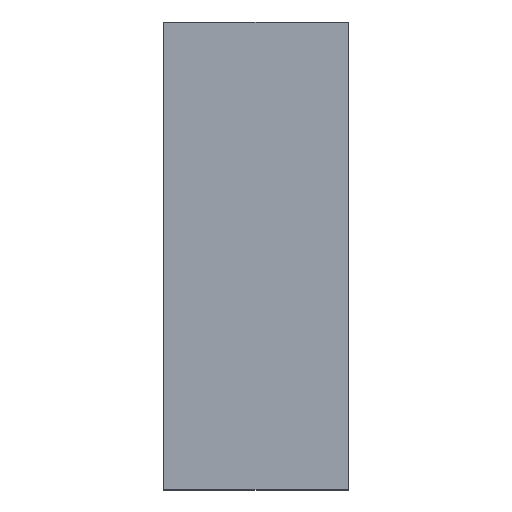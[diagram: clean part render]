
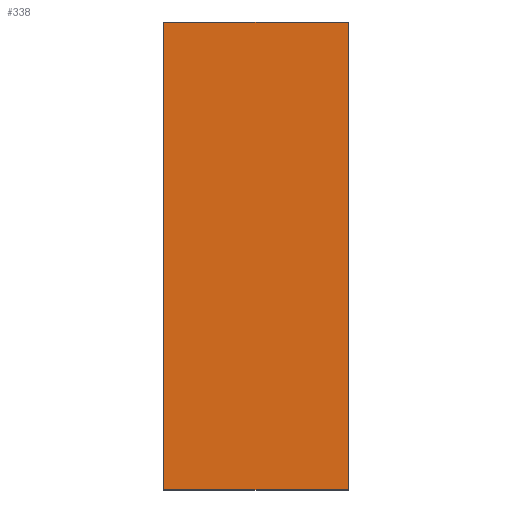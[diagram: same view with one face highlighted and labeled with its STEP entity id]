
A CAD part, top view. The second image highlights one B-rep face of the part: STEP entity #338.
In plain terms, the highlighted planar face has unit normal (0, 0, 1).
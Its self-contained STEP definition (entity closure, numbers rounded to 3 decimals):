
#24 = VERTEX_POINT('',#25);
#25 = CARTESIAN_POINT('',(1260.,-190.,171.));
#32 = PLANE('',#33);
#33 = AXIS2_PLACEMENT_3D('',#34,#35,#36);
#34 = CARTESIAN_POINT('',(1260.,-190.,165.));
#35 = DIRECTION('',(-1.,0.,0.));
#36 = DIRECTION('',(0.,1.,0.));
#44 = PLANE('',#45);
#45 = AXIS2_PLACEMENT_3D('',#46,#47,#48);
#46 = CARTESIAN_POINT('',(1410.,-190.,165.));
#47 = DIRECTION('',(0.,-1.,0.));
#48 = DIRECTION('',(-1.,0.,0.));
#56 = EDGE_CURVE('',#24,#57,#59,.T.);
#57 = VERTEX_POINT('',#58);
#58 = CARTESIAN_POINT('',(1260.,190.,171.));
#59 = SURFACE_CURVE('',#60,(#64,#71),.PCURVE_S1.);
#60 = LINE('',#61,#62);
#61 = CARTESIAN_POINT('',(1260.,-190.,171.));
#62 = VECTOR('',#63,1.);
#63 = DIRECTION('',(0.,1.,0.));
#64 = PCURVE('',#32,#65);
#65 = DEFINITIONAL_REPRESENTATION('',(#66),#70);
#66 = LINE('',#67,#68);
#67 = CARTESIAN_POINT('',(0.,-6.));
#68 = VECTOR('',#69,1.);
#69 = DIRECTION('',(1.,0.));
#70 = ( GEOMETRIC_REPRESENTATION_CONTEXT(2) 
PARAMETRIC_REPRESENTATION_CONTEXT() REPRESENTATION_CONTEXT('2D SPACE',''
  ) );
#71 = PCURVE('',#72,#77);
#72 = PLANE('',#73);
#73 = AXIS2_PLACEMENT_3D('',#74,#75,#76);
#74 = CARTESIAN_POINT('',(1335.,0.,171.));
#75 = DIRECTION('',(-0.,-0.,-1.));
#76 = DIRECTION('',(-1.,0.,0.));
#77 = DEFINITIONAL_REPRESENTATION('',(#78),#82);
#78 = LINE('',#79,#80);
#79 = CARTESIAN_POINT('',(75.,-190.));
#80 = VECTOR('',#81,1.);
#81 = DIRECTION('',(0.,1.));
#82 = ( GEOMETRIC_REPRESENTATION_CONTEXT(2) 
PARAMETRIC_REPRESENTATION_CONTEXT() REPRESENTATION_CONTEXT('2D SPACE',''
  ) );
#100 = PLANE('',#101);
#101 = AXIS2_PLACEMENT_3D('',#102,#103,#104);
#102 = CARTESIAN_POINT('',(1260.,190.,165.));
#103 = DIRECTION('',(0.,1.,0.));
#104 = DIRECTION('',(1.,0.,0.));
#142 = EDGE_CURVE('',#57,#143,#145,.T.);
#143 = VERTEX_POINT('',#144);
#144 = CARTESIAN_POINT('',(1410.,190.,171.));
#145 = SURFACE_CURVE('',#146,(#150,#157),.PCURVE_S1.);
#146 = LINE('',#147,#148);
#147 = CARTESIAN_POINT('',(1260.,190.,171.));
#148 = VECTOR('',#149,1.);
#149 = DIRECTION('',(1.,0.,0.));
#150 = PCURVE('',#100,#151);
#151 = DEFINITIONAL_REPRESENTATION('',(#152),#156);
#152 = LINE('',#153,#154);
#153 = CARTESIAN_POINT('',(0.,-6.));
#154 = VECTOR('',#155,1.);
#155 = DIRECTION('',(1.,0.));
#156 = ( GEOMETRIC_REPRESENTATION_CONTEXT(2) 
PARAMETRIC_REPRESENTATION_CONTEXT() REPRESENTATION_CONTEXT('2D SPACE',''
  ) );
#157 = PCURVE('',#72,#158);
#158 = DEFINITIONAL_REPRESENTATION('',(#159),#163);
#159 = LINE('',#160,#161);
#160 = CARTESIAN_POINT('',(75.,190.));
#161 = VECTOR('',#162,1.);
#162 = DIRECTION('',(-1.,0.));
#163 = ( GEOMETRIC_REPRESENTATION_CONTEXT(2) 
PARAMETRIC_REPRESENTATION_CONTEXT() REPRESENTATION_CONTEXT('2D SPACE',''
  ) );
#181 = PLANE('',#182);
#182 = AXIS2_PLACEMENT_3D('',#183,#184,#185);
#183 = CARTESIAN_POINT('',(1410.,190.,165.));
#184 = DIRECTION('',(1.,0.,-0.));
#185 = DIRECTION('',(0.,-1.,0.));
#218 = EDGE_CURVE('',#143,#219,#221,.T.);
#219 = VERTEX_POINT('',#220);
#220 = CARTESIAN_POINT('',(1410.,-190.,171.));
#221 = SURFACE_CURVE('',#222,(#226,#233),.PCURVE_S1.);
#222 = LINE('',#223,#224);
#223 = CARTESIAN_POINT('',(1410.,190.,171.));
#224 = VECTOR('',#225,1.);
#225 = DIRECTION('',(0.,-1.,0.));
#226 = PCURVE('',#181,#227);
#227 = DEFINITIONAL_REPRESENTATION('',(#228),#232);
#228 = LINE('',#229,#230);
#229 = CARTESIAN_POINT('',(0.,-6.));
#230 = VECTOR('',#231,1.);
#231 = DIRECTION('',(1.,0.));
#232 = ( GEOMETRIC_REPRESENTATION_CONTEXT(2) 
PARAMETRIC_REPRESENTATION_CONTEXT() REPRESENTATION_CONTEXT('2D SPACE',''
  ) );
#233 = PCURVE('',#72,#234);
#234 = DEFINITIONAL_REPRESENTATION('',(#235),#239);
#235 = LINE('',#236,#237);
#236 = CARTESIAN_POINT('',(-75.,190.));
#237 = VECTOR('',#238,1.);
#238 = DIRECTION('',(0.,-1.));
#239 = ( GEOMETRIC_REPRESENTATION_CONTEXT(2) 
PARAMETRIC_REPRESENTATION_CONTEXT() REPRESENTATION_CONTEXT('2D SPACE',''
  ) );
#289 = EDGE_CURVE('',#219,#24,#290,.T.);
#290 = SURFACE_CURVE('',#291,(#295,#302),.PCURVE_S1.);
#291 = LINE('',#292,#293);
#292 = CARTESIAN_POINT('',(1410.,-190.,171.));
#293 = VECTOR('',#294,1.);
#294 = DIRECTION('',(-1.,0.,0.));
#295 = PCURVE('',#44,#296);
#296 = DEFINITIONAL_REPRESENTATION('',(#297),#301);
#297 = LINE('',#298,#299);
#298 = CARTESIAN_POINT('',(0.,-6.));
#299 = VECTOR('',#300,1.);
#300 = DIRECTION('',(1.,0.));
#301 = ( GEOMETRIC_REPRESENTATION_CONTEXT(2) 
PARAMETRIC_REPRESENTATION_CONTEXT() REPRESENTATION_CONTEXT('2D SPACE',''
  ) );
#302 = PCURVE('',#72,#303);
#303 = DEFINITIONAL_REPRESENTATION('',(#304),#308);
#304 = LINE('',#305,#306);
#305 = CARTESIAN_POINT('',(-75.,-190.));
#306 = VECTOR('',#307,1.);
#307 = DIRECTION('',(1.,0.));
#308 = ( GEOMETRIC_REPRESENTATION_CONTEXT(2) 
PARAMETRIC_REPRESENTATION_CONTEXT() REPRESENTATION_CONTEXT('2D SPACE',''
  ) );
#338 = ADVANCED_FACE('',(#339),#72,.F.);
#339 = FACE_BOUND('',#340,.F.);
#340 = EDGE_LOOP('',(#341,#342,#343,#344));
#341 = ORIENTED_EDGE('',*,*,#56,.T.);
#342 = ORIENTED_EDGE('',*,*,#142,.T.);
#343 = ORIENTED_EDGE('',*,*,#218,.T.);
#344 = ORIENTED_EDGE('',*,*,#289,.T.);
